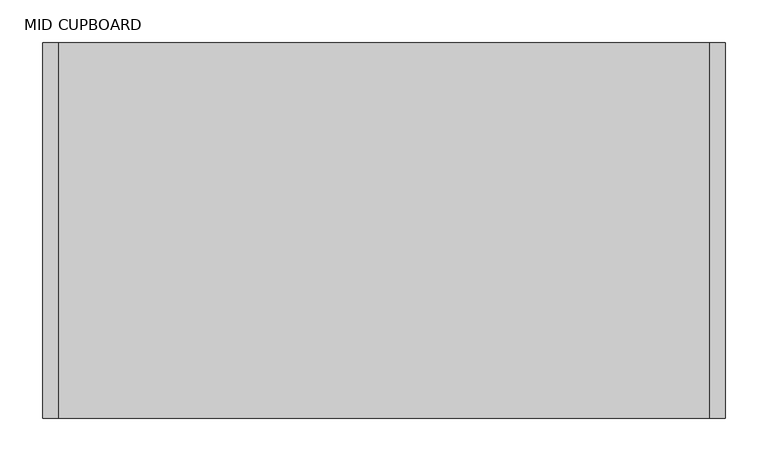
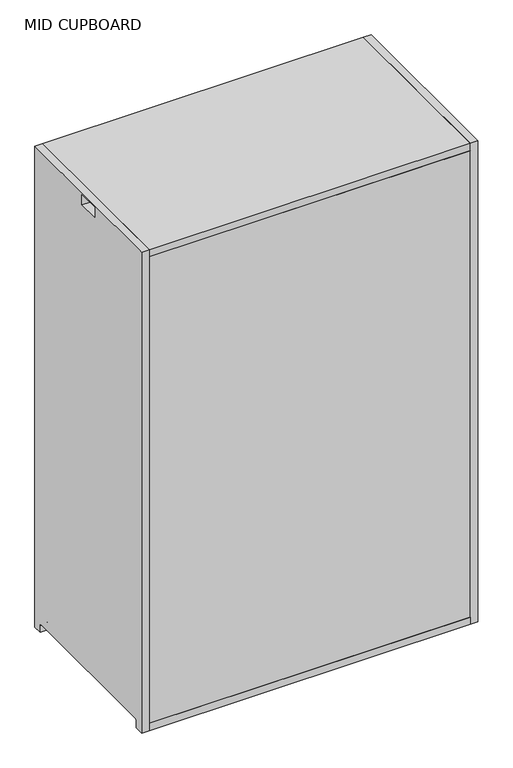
"""IFC4 building model written with IfcOpenShell, lengths in millimetres: furniture geometry, MID CUPBOARD : 800mmW_SHELVES & DIVIDER."""

from ifc_helpers import new_model, si_unit, point, frame, frame_2d, origin, place, context, project, spatial, polyline, circle_curve, trimmed, segment, composite_curve, outline, extrude, source, transform, mapped, element, save
from ifc_brep_helpers import plane_surface, revolved_surface, advanced_brep


def mid_cupboard_dc1b65f7(model_context):
    return source(origin(), model_context, "Body", "SolidModel", [
        extrude(outline(composite_curve([segment(polyline([(220.0, 1210.0), (220.0, 0.0), (198.0, 0.0), (198.0, 17.0)]), True, "CONTINUOUS"), segment(trimmed(circle_curve(frame_2d((194.0, 17.0)), 4.0), [point((198.0, 17.0))], [point((194.0, 21.0))], True, "CARTESIAN"), True, "CONTINUOUS"), segment(polyline([(194.0, 21.0), (-194.0, 21.0)]), True, "CONTINUOUS"), segment(trimmed(circle_curve(frame_2d((-194.0, 17.0)), 4.0), [point((-194.0, 21.0))], [point((-198.0, 17.0))], True, "CARTESIAN"), True, "CONTINUOUS"), segment(polyline([(-198.0, 17.0), (-198.0, 0.0), (-220.0, 0.0), (-220.0, 1210.0), (220.0, 1210.0)]), True, "CONTINUOUS")], self_intersect=False), holes=[polyline([(26.0, 1205.0), (-26.0, 1205.0), (-26.0, 1180.0), (26.0, 1180.0), (26.0, 1205.0)])]), frame((-400.0, 0.0, 0.0), z_axis=(1.0, 0.0, 0.0), x_axis=(0.0, 1.0, 0.0)), (0.0, 0.0, 1.0), 18.0),
        advanced_brep(
        [(382.0, -220.0, 18.0), (382.0, 220.0, 18.0), (-382.0, 220.0, 18.0), (-382.0, 197.8729833, 18.0), (-376.1019215, 197.8729833, 18.0), (-376.1019215, -197.8729833, 18.0), (-382.0, -197.8729833, 18.0), (-382.0, -220.0, 18.0), (382.0, -220.0, 0.0), (-382.0, -220.0, 0.0), (-382.0, -198.0, 0.0), (-376.1019215, -198.0, 0.0), (-376.1019215, 198.0, 0.0), (-382.0, 198.0, 0.0), (-382.0, 220.0, 0.0), (382.0, 220.0, 0.0), (-382.0, -198.0, 17.0), (-382.0, 198.0, 17.0), (-376.1019215, -198.0, 17.0), (-376.1019215, 198.0, 17.0)],
        [
            (0, 1),
            (1, 2),
            (2, 3),
            (3, 4),
            (4, 5),
            (5, 6),
            (6, 7),
            (7, 0),
            (8, 9),
            (9, 10),
            (10, 11),
            (11, 12),
            (12, 13),
            (13, 14),
            (14, 15),
            (15, 8),
            (7, 9),
            (8, 0),
            (6, 16, circle_curve(frame((-382.0, -194.0, 17.0), z_axis=(1.0, 0.0, 0.0), x_axis=(0.0, -1.0, 0.0)), 4.0)),
            (16, 10),
            (13, 17),
            (17, 3, circle_curve(frame((-382.0, 194.0, 17.0), z_axis=(1.0, 0.0, 0.0), x_axis=(0.0, -1.0, 0.0)), 4.0)),
            (2, 14),
            (1, 15),
            (18, 5, circle_curve(frame((-376.1019215, -194.0, 17.0), z_axis=(-1.0, 0.0, 0.0), x_axis=(0.0, -1.0, 0.0)), 4.0)),
            (4, 19, circle_curve(frame((-376.1019215, 194.0, 17.0), z_axis=(-1.0, 0.0, 0.0), x_axis=(0.0, -1.0, 0.0)), 4.0)),
            (19, 12),
            (11, 18),
            (17, 19),
            (16, 18),
        ],
        [
            plane_surface(frame((-382.0, -220.0, 18.0), z_axis=(0.0, 0.0, 1.0), x_axis=(-1.0, 0.0, 0.0))),
            plane_surface(frame((-382.0, -220.0, 0.0), z_axis=(0.0, 0.0, -1.0), x_axis=(1.0, 0.0, 0.0))),
            plane_surface(frame((382.0, -220.0, 18.0), z_axis=(0.0, -1.0, 0.0), x_axis=(0.0, 0.0, -1.0))),
            plane_surface(frame((-382.0, -220.0, 18.0), z_axis=(-1.0, 0.0, 0.0), x_axis=(0.0, 0.0, -1.0))),
            plane_surface(frame((-382.0, 220.0, 18.0), z_axis=(0.0, 1.0, 0.0), x_axis=(0.0, 0.0, -1.0))),
            plane_surface(frame((382.0, 220.0, 18.0), z_axis=(1.0, 0.0, 0.0), x_axis=(0.0, 0.0, -1.0))),
            plane_surface(frame((-376.1019215, 190.0, 17.0), z_axis=(-1.0, 0.0, 0.0), x_axis=(0.0, 0.0, 1.0))),
            revolved_surface(polyline([(-376.1019215, 190.0, 17.0), (-382.0, 190.0, 17.0)]), (-406.0458228, 194.0, 17.0), (1.0, 0.0, 0.0)),
            plane_surface(frame((-376.1019215, 198.0, 17.0), z_axis=(0.0, -1.0, 0.0), x_axis=(-1.0, 0.0, 0.0))),
            plane_surface(frame((-376.1019215, -198.0, 0.0), z_axis=(0.0, 1.0, 0.0), x_axis=(-1.0, 0.0, 0.0))),
            revolved_surface(polyline([(-376.1019215, -198.0, 17.0), (-382.0, -198.0, 17.0)]), (-406.0458228, -194.0, 17.0), (1.0, 0.0, 0.0)),
        ],
        [
            (0, [[1, 2, 3, 4, 5, 6, 7, 8]]),
            (1, [[9, 10, 11, 12, 13, 14, 15, 16]]),
            (2, [[17, -9, 18, -8]]),
            (3, [[-7, 19, 20, -10, -17]]),
            (3, [[-14, 21, 22, -3, 23]]),
            (4, [[24, -15, -23, -2]]),
            (5, [[-18, -16, -24, -1]]),
            (6, [[25, -5, 26, 27, -12, 28]]),
            (7, [[-4, -22, 29, -26]]),
            (8, [[-29, -21, -13, -27]]),
            (9, [[-11, -20, 30, -28]]),
            (10, [[-30, -19, -6, -25]]),
        ],
    ),
        extrude(outline(composite_curve([segment(polyline([(220.0, 1210.0), (220.0, 0.0), (198.0, 0.0), (198.0, 17.0)]), True, "CONTINUOUS"), segment(trimmed(circle_curve(frame_2d((194.0, 17.0)), 4.0), [point((198.0, 17.0))], [point((194.0, 21.0))], True, "CARTESIAN"), True, "CONTINUOUS"), segment(polyline([(194.0, 21.0), (-194.0, 21.0)]), True, "CONTINUOUS"), segment(trimmed(circle_curve(frame_2d((-194.0, 17.0)), 4.0), [point((-194.0, 21.0))], [point((-198.0, 17.0))], True, "CARTESIAN"), True, "CONTINUOUS"), segment(polyline([(-198.0, 17.0), (-198.0, 0.0), (-220.0, 0.0), (-220.0, 1210.0), (220.0, 1210.0)]), True, "CONTINUOUS")], self_intersect=False), holes=[polyline([(26.0, 1205.0), (-26.0, 1205.0), (-26.0, 1180.0), (26.0, 1180.0), (26.0, 1205.0)])]), frame((382.0, 0.0, 0.0), z_axis=(1.0, 0.0, 0.0), x_axis=(0.0, 1.0, 0.0)), (0.0, 0.0, 1.0), 18.0),
        extrude(outline(polyline([(382.0, -220.0), (-382.0, -220.0), (-382.0, -202.0), (382.0, -202.0), (382.0, -220.0)])), frame((0.0, 0.0, 18.0), z_axis=(0.0, 0.0, 1.0), x_axis=(1.0, 0.0, 0.0)), (0.0, 0.0, 1.0), 1174.0),
        extrude(outline(polyline([(382.0, -202.0), (-382.0, -202.0), (-382.0, 220.0), (382.0, 220.0), (382.0, -202.0)])), frame((0.0, 0.0, 398.5), z_axis=(0.0, 0.0, 1.0), x_axis=(1.0, 0.0, 0.0)), (0.0, 0.0, 1.0), 18.0),
        extrude(outline(polyline([(382.0, -202.0), (-382.0, -202.0), (-382.0, 220.0), (382.0, 220.0), (382.0, -202.0)])), frame((0.0, 0.0, 793.5), z_axis=(0.0, 0.0, 1.0), x_axis=(1.0, 0.0, 0.0)), (0.0, 0.0, 1.0), 18.0),
        extrude(outline(polyline([(382.0, -220.0), (-382.0, -220.0), (-382.0, 220.0), (382.0, 220.0), (382.0, -220.0)])), frame((0.0, 0.0, 1192.0), z_axis=(0.0, 0.0, 1.0), x_axis=(1.0, 0.0, 0.0)), (0.0, 0.0, 1.0), 18.0),
        extrude(outline(polyline([(9.0, -202.0), (-9.0, -202.0), (-9.0, 220.0), (9.0, 220.0), (9.0, -202.0)])), frame((0.0, 0.0, 18.0), z_axis=(0.0, 0.0, 1.0), x_axis=(1.0, 0.0, 0.0)), (0.0, 0.0, 1.0), 1174.0),
    ])


if __name__ == "__main__":
    model = new_model("IFC4")
    model_context = context("Model", 3, world=origin())
    ifc_project = project(units=[si_unit("LENGTHUNIT", "METRE", prefix="MILLI")], contexts=[model_context])
    site = spatial("IfcSite", under=ifc_project)
    building = spatial("IfcBuilding", under=site)
    placement = place(None, origin())
    mid_cupboard_shape = mid_cupboard_dc1b65f7(model_context)
    element("IfcFurniture", 1, ObjectType="MID CUPBOARD : 800mmW_SHELVES & DIVIDER", at=placement, inside=building, context=model_context, shape_type="MappedRepresentation", body=[
        mapped(mid_cupboard_shape, transform((0.0, 0.0, 0.0), x_axis=(1.0, 0.0, 0.0), y_axis=(0.0, 1.0, 0.0), z_axis=(0.0, 0.0, 1.0))),
    ])
    save(model, "model.ifc")
